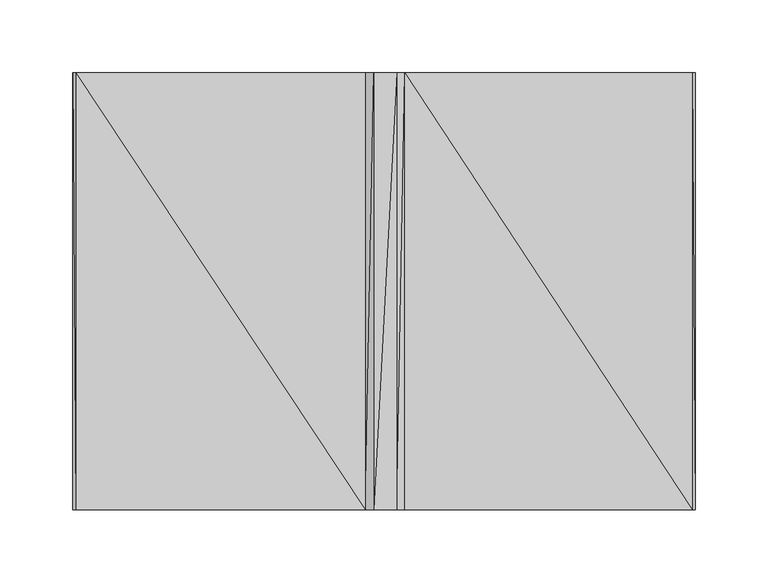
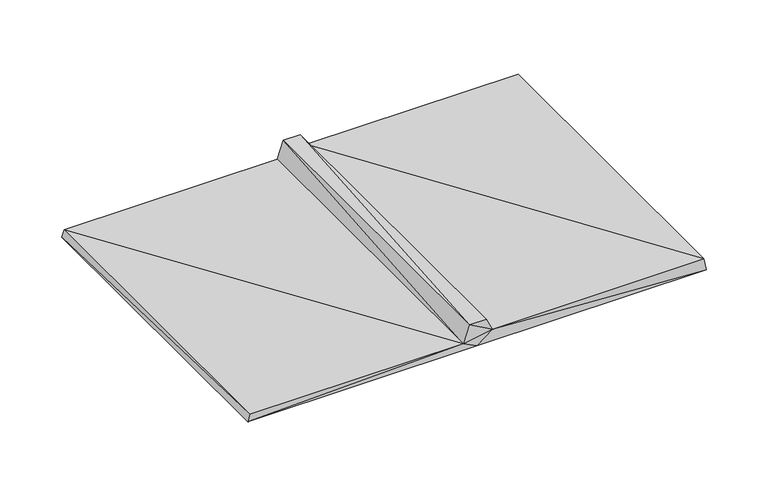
"""IFC4 building model written with IfcOpenShell, lengths in millimetres: geographic element geometry, TempEnscape AssetDefinition - Notebook 001 Open : TempEnscape AssetDefinition - Notebook 001 Open."""

from ifc_helpers import new_model, si_unit, origin, place, context, project, spatial, faceted_brep, source, transform, mapped, element, save


def geographic_element_b15457b9(model_context):
    return source(origin(), model_context, "Body", "Brep", [
        faceted_brep([(-0.492, -150.5209953, 0.0), (-214.1830027, 149.4790018, 0.0), (-0.492, 149.4790018, 0.0), (-214.1830027, -150.5209953, 0.0), (-212.1829987, -150.5209953, 6.6), (-212.1829987, 149.4790018, 6.6), (-13.3680003, -150.5209953, 6.5819998), (-13.3680003, 149.4790018, 6.5819998), (-7.646, 149.4790018, 22.9770001), (-7.646, -150.5209953, 22.9770001), (13.8149997, -150.5209953, 11.4179999), (13.8149997, 149.4790018, 11.4179999), (8.0930004, 149.4790018, 22.9770001), (8.0930004, -150.5209953, 22.9770001), (211.1990005, -150.5209953, 11.4000002), (213.1990045, -150.5209953, 0.0), (213.1990045, 149.4790018, 0.0), (211.1990005, 149.4790018, 11.4000002)], [[[0, 1, 2]], [[1, 0, 3]], [[4, 1, 3]], [[1, 4, 5]], [[5, 2, 1]], [[6, 3, 0]], [[3, 6, 4]], [[6, 5, 4]], [[5, 6, 7]], [[2, 5, 7]], [[8, 6, 9]], [[6, 8, 7]], [[10, 9, 6]], [[6, 0, 10]], [[8, 11, 7]], [[2, 7, 11]], [[9, 12, 8]], [[11, 8, 12]], [[12, 9, 13]], [[9, 10, 13]], [[14, 11, 10]], [[11, 13, 10]], [[10, 15, 14]], [[15, 10, 0]], [[13, 11, 12]], [[11, 16, 2]], [[16, 11, 17]], [[11, 14, 17]], [[15, 17, 14]], [[17, 15, 16]], [[0, 16, 15]], [[16, 0, 2]]]),
    ])


if __name__ == "__main__":
    model = new_model("IFC4")
    model_context = context("Model", 3, world=origin())
    ifc_project = project(units=[si_unit("LENGTHUNIT", "METRE", prefix="MILLI")], contexts=[model_context])
    site = spatial("IfcSite", under=ifc_project)
    building = spatial("IfcBuilding", under=site)
    placement = place(None, origin())
    geographic_element_shape = geographic_element_b15457b9(model_context)
    element("IfcGeographicElement", 1, ObjectType="TempEnscape AssetDefinition - Notebook 001 Open : TempEnscape AssetDefinition - Notebook 001 Open", at=placement, inside=building, context=model_context, shape_type="MappedRepresentation", body=[
        mapped(geographic_element_shape, transform((0.0, 0.0, 0.0), x_axis=(1.0, 0.0, 0.0), y_axis=(0.0, 1.0, 0.0), z_axis=(0.0, 0.0, 1.0))),
    ])
    save(model, "model.ifc")
